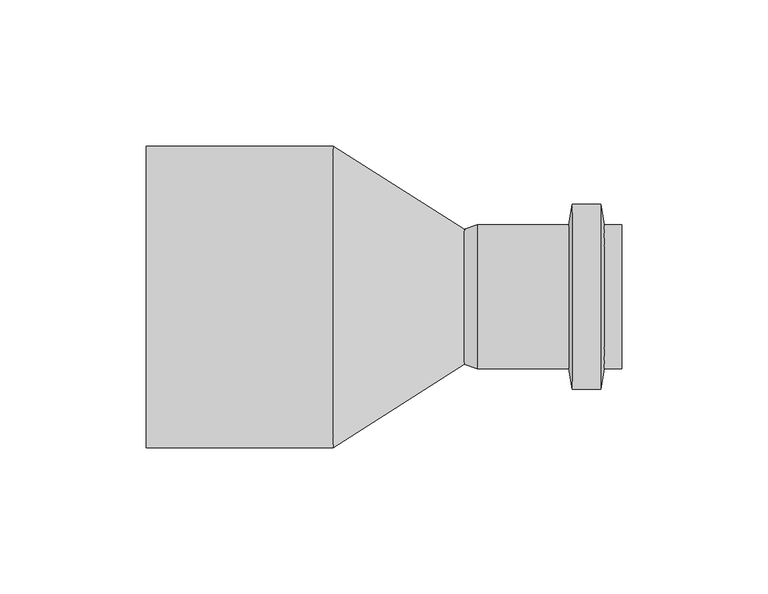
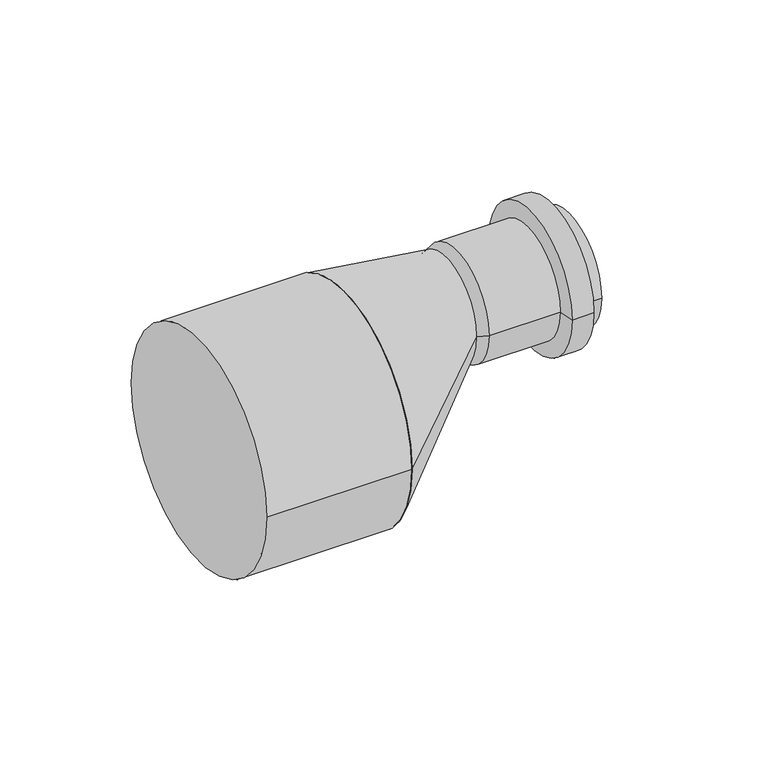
"""IFC4 building model written with IfcOpenShell, lengths in millimetres: pipe fitting geometry, ZZZ_Master 3+ redukcja-sh_Pipelife : DN 32-160 (zagnieżdżony)."""

from ifc_helpers import new_model, si_unit, point, frame, origin, origin_2d, place, context, project, spatial, polyline, circle_curve, trimmed, segment, composite_curve, outline, extrude, source, transform, mapped, element, save
from ifc_brep_helpers import plane_surface, cylinder_surface, revolved_surface, spline_surface, advanced_brep


def pipe_fitting_0f0acc9f(model_context):
    return source(origin(), model_context, "Body", "SolidModel", [
        advanced_brep(
        [(54.5, 23.1, 28.6), (54.5, -23.1, 28.6), (108.4, -23.1, 28.6), (108.4, 23.1, 28.6), (58.8959639, 24.7, 28.6), (58.8959639, -24.7, 28.6), (90.2, 24.7, 28.6), (90.2, -24.7, 28.6), (91.4254725, 31.65, 28.6), (91.4254725, -31.65, 28.6), (101.0745275, 31.65, 28.6), (101.0745275, -31.65, 28.6), (102.3, 24.7, 28.6), (102.3, -24.7, 28.6), (108.4, 24.7, 28.6), (108.4, -24.7, 28.6)],
        [
            (0, 1, circle_curve(frame((54.5, 0.0, 28.6), z_axis=(-1.0, 0.0, 0.0), x_axis=(0.0, -1.0, 0.0)), 23.1)),
            (1, 2),
            (2, 3, circle_curve(frame((108.4, 0.0, 28.6), z_axis=(1.0, 0.0, 0.0), x_axis=(0.0, -1.0, 0.0)), 23.1)),
            (3, 0),
            (1, 0, circle_curve(frame((54.5, 0.0, 28.6), z_axis=(-1.0, 0.0, 0.0), x_axis=(0.0, -1.0, 0.0)), 23.1)),
            (3, 2, circle_curve(frame((108.4, 0.0, 28.6), z_axis=(1.0, 0.0, 0.0), x_axis=(0.0, -1.0, 0.0)), 23.1)),
            (4, 5, circle_curve(frame((58.8959639, 0.0, 28.6), z_axis=(-1.0, 0.0, 0.0), x_axis=(0.0, -1.0, 0.0)), 24.7)),
            (5, 1),
            (0, 4),
            (5, 4, circle_curve(frame((58.8959639, 0.0, 28.6), z_axis=(-1.0, 0.0, 0.0), x_axis=(0.0, -1.0, 0.0)), 24.7)),
            (6, 7, circle_curve(frame((90.2, 0.0, 28.6), z_axis=(-1.0, 0.0, 0.0), x_axis=(0.0, -1.0, 0.0)), 24.7)),
            (7, 5),
            (4, 6),
            (7, 6, circle_curve(frame((90.2, 0.0, 28.6), z_axis=(-1.0, 0.0, 0.0), x_axis=(0.0, -1.0, 0.0)), 24.7)),
            (8, 9, circle_curve(frame((91.4254725, 0.0, 28.6), z_axis=(-1.0, 0.0, 0.0), x_axis=(0.0, -1.0, 0.0)), 31.65)),
            (9, 7),
            (6, 8),
            (9, 8, circle_curve(frame((91.4254725, 0.0, 28.6), z_axis=(-1.0, 0.0, 0.0), x_axis=(0.0, -1.0, 0.0)), 31.65)),
            (10, 11, circle_curve(frame((101.0745275, 0.0, 28.6), z_axis=(-1.0, 0.0, 0.0), x_axis=(0.0, -1.0, 0.0)), 31.65)),
            (11, 9),
            (8, 10),
            (11, 10, circle_curve(frame((101.0745275, 0.0, 28.6), z_axis=(-1.0, 0.0, 0.0), x_axis=(0.0, -1.0, 0.0)), 31.65)),
            (12, 13, circle_curve(frame((102.3, 0.0, 28.6), z_axis=(-1.0, 0.0, 0.0), x_axis=(0.0, -1.0, 0.0)), 24.7)),
            (13, 11),
            (10, 12),
            (13, 12, circle_curve(frame((102.3, 0.0, 28.6), z_axis=(-1.0, 0.0, 0.0), x_axis=(0.0, -1.0, 0.0)), 24.7)),
            (14, 15, circle_curve(frame((108.4, 0.0, 28.6), z_axis=(-1.0, 0.0, 0.0), x_axis=(0.0, -1.0, 0.0)), 24.7)),
            (15, 13),
            (12, 14),
            (15, 14, circle_curve(frame((108.4, 0.0, 28.6), z_axis=(-1.0, 0.0, 0.0), x_axis=(0.0, -1.0, 0.0)), 24.7)),
            (2, 15),
            (14, 3),
        ],
        [
            revolved_surface(polyline([(108.4, -23.1, 28.6), (54.5, -23.1, 28.6)]), (118.4, 0.0, 28.6), (1.0, 0.0, 0.0)),
            revolved_surface(polyline([(54.5, -23.1, 28.6), (58.8959639, -24.7, 28.6)]), (118.4, 0.0, 28.6), (1.0, 0.0, 0.0)),
            cylinder_surface(frame((118.4, 0.0, 28.6), z_axis=(1.0, 0.0, 0.0), x_axis=(0.0, -1.0, 0.0)), 24.7),
            revolved_surface(polyline([(90.2, -24.7, 28.6), (91.4254725, -31.65, 28.6)]), (118.4, 0.0, 28.6), (1.0, 0.0, 0.0)),
            cylinder_surface(frame((118.4, 0.0, 28.6), z_axis=(1.0, 0.0, 0.0), x_axis=(0.0, -1.0, 0.0)), 31.65),
            revolved_surface(polyline([(101.0745275, -31.65, 28.6), (102.3, -24.7, 28.6)]), (118.4, 0.0, 28.6), (1.0, 0.0, 0.0)),
            plane_surface(frame((108.4, 0.0, 28.6), z_axis=(1.0, 0.0, 0.0), x_axis=(0.0, -1.0, 0.0))),
        ],
        [
            (0, [[1, 2, 3, 4]]),
            (0, [[5, -4, 6, -2]]),
            (1, [[7, 8, -1, 9]]),
            (1, [[10, -9, -5, -8]]),
            (2, [[11, 12, -7, 13]]),
            (2, [[14, -13, -10, -12]]),
            (3, [[15, 16, -11, 17]]),
            (3, [[18, -17, -14, -16]]),
            (4, [[19, 20, -15, 21]]),
            (4, [[22, -21, -18, -20]]),
            (5, [[23, 24, -19, 25]]),
            (5, [[26, -25, -22, -24]]),
            (2, [[27, 28, -23, 29]]),
            (2, [[30, -29, -26, -28]]),
            (6, [[-3, 31, -27, 32]]),
            (6, [[-6, -32, -30, -31]]),
        ],
    ),
        advanced_brep(
        [(54.5, -23.1, 28.6), (54.5, 23.1, 28.6), (9.5, -51.6, 0.0), (9.5, 51.6, 0.0)],
        [
            (0, 1, circle_curve(frame((54.5, 0.0, 28.6), z_axis=(1.0, 0.0, 0.0), x_axis=(0.0, 1.0, 0.0)), 23.1)),
            (1, 0, circle_curve(frame((54.5, 0.0, 28.6), z_axis=(1.0, 0.0, 0.0), x_axis=(0.0, 1.0, 0.0)), 23.1)),
            (2, 3, circle_curve(frame((9.5, 0.0, 0.0), z_axis=(-1.0, 0.0, 0.0), x_axis=(0.0, 1.0, 0.0)), 51.6)),
            (3, 2, circle_curve(frame((9.5, 0.0, 0.0), z_axis=(-1.0, 0.0, 0.0), x_axis=(0.0, 1.0, 0.0)), 51.6)),
            (3, 1),
            (0, 2),
        ],
        [
            plane_surface(frame((54.5, 0.0, 28.6), z_axis=(1.0, 0.0, 0.0), x_axis=(0.0, 0.0, -1.0))),
            plane_surface(frame((9.5, 0.0, 0.0), z_axis=(-1.0, 0.0, 0.0), x_axis=(0.0, 0.0, -1.0))),
            spline_surface(2, 1, [[(9.5, -51.6, 0.0), (54.5, -23.1, 28.6)], [(9.5, -51.6, -51.6), (54.5, -23.1, 5.5)], [(9.5, 0.0, -51.6), (54.5, 0.0, 5.5)], [(9.5, 51.6, -51.6), (54.5, 23.1, 5.5)], [(9.5, 51.6, 0.0), (54.5, 23.1, 28.6)]], [3, 2, 3], [2, 2], [0.0, 1.0, 2.0], [0.0, 1.0], weights=[[1.0, 1.0], [0.7071067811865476, 0.7071067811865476], [1.0, 1.0], [0.7071067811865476, 0.7071067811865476], [1.0, 1.0]]),
            spline_surface(2, 1, [[(9.5, 51.6, 0.0), (54.5, 23.1, 28.6)], [(9.5, 51.6, 51.6), (54.5, 23.1, 51.7)], [(9.5, 0.0, 51.6), (54.5, 0.0, 51.7)], [(9.5, -51.6, 51.6), (54.5, -23.1, 51.7)], [(9.5, -51.6, 0.0), (54.5, -23.1, 28.6)]], [3, 2, 3], [2, 2], [0.0, 1.0, 2.0], [0.0, 1.0], weights=[[1.0, 1.0], [0.7071067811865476, 0.7071067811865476], [1.0, 1.0], [0.7071067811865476, 0.7071067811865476], [1.0, 1.0]]),
        ],
        [
            (0, [[1, 2]]),
            (1, [[3, 4]]),
            (2, [[-4, 5, -1, 6]]),
            (3, [[-3, -6, -2, -5]]),
        ],
    ),
        extrude(outline(composite_curve([segment(trimmed(circle_curve(origin_2d(), 51.6), [point((-51.6, 0.0))], [point((51.6, 0.0))], False, "CARTESIAN"), True, "CONTINUOUS"), segment(trimmed(circle_curve(origin_2d(), 51.6), [point((51.6, 0.0))], [point((-51.6, 0.0))], False, "CARTESIAN"), True, "CONTINUOUS")], self_intersect=False)), frame((-54.5, 0.0, 0.0), z_axis=(1.0, 0.0, 0.0), x_axis=(0.0, 1.0, 0.0)), (0.0, 0.0, 1.0), 64.0),
    ])


if __name__ == "__main__":
    model = new_model("IFC4")
    model_context = context("Model", 3, world=origin())
    ifc_project = project(units=[si_unit("LENGTHUNIT", "METRE", prefix="MILLI")], contexts=[model_context])
    site = spatial("IfcSite", under=ifc_project)
    building = spatial("IfcBuilding", under=site)
    placement = place(None, origin())
    pipe_fitting_shape = pipe_fitting_0f0acc9f(model_context)
    element("IfcPipeFitting", 1, ObjectType="ZZZ_Master 3+ redukcja-sh_Pipelife : DN 32-160 (zagnieżdżony)", at=placement, inside=building, context=model_context, shape_type="MappedRepresentation", body=[
        mapped(pipe_fitting_shape, transform((0.0, 0.0, 0.0), x_axis=(1.0, 0.0, 0.0), y_axis=(0.0, 1.0, 0.0), z_axis=(0.0, 0.0, 1.0))),
    ])
    save(model, "model.ifc")
